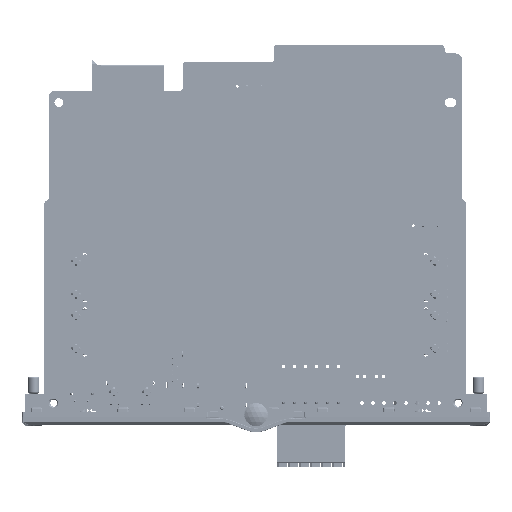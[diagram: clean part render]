
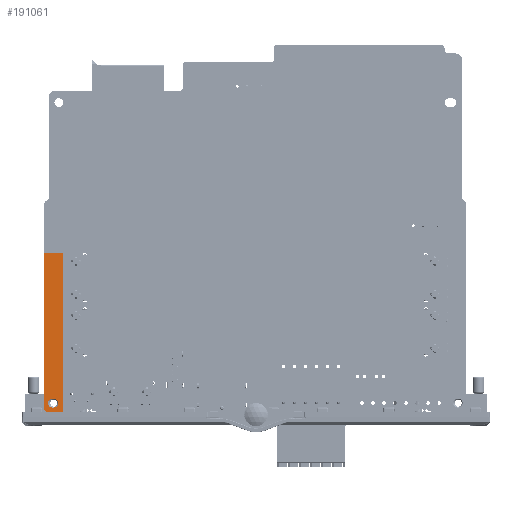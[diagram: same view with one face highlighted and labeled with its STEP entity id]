
A CAD part, front view. The second image highlights one B-rep face of the part: STEP entity #191061.
In plain terms, the highlighted planar face has unit normal (0, -1, 0).
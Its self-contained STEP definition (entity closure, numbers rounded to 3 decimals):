
#1654=FACE_BOUND('',#19735,.T.);
#2770=PLANE('',#201519);
#9706=FACE_OUTER_BOUND('',#19734,.T.);
#19734=EDGE_LOOP('',(#124975,#124976,#124977,#124978,#124979,#124980,#124981,
#124982,#124983,#124984,#124985,#124986,#124987,#124988,#124989,#124990,
#124991,#124992,#124993,#124994,#124995));
#19735=EDGE_LOOP('',(#124996,#124997,#124998,#124999));
#30784=CIRCLE('',#201518,1.);
#30785=CIRCLE('',#201520,0.5);
#30786=CIRCLE('',#201521,0.5);
#30787=CIRCLE('',#201522,0.5);
#30788=CIRCLE('',#201523,0.5);
#30789=CIRCLE('',#201524,0.5);
#30790=CIRCLE('',#201525,0.5);
#30791=CIRCLE('',#201526,0.5);
#30792=CIRCLE('',#201527,0.5);
#30793=CIRCLE('',#201528,1.55);
#30794=CIRCLE('',#201529,1.55);
#36379=LINE('',#269985,#57290);
#36761=LINE('',#271570,#57672);
#36762=LINE('',#271574,#57673);
#36763=LINE('',#271578,#57674);
#36764=LINE('',#271582,#57675);
#36765=LINE('',#271586,#57676);
#36766=LINE('',#271590,#57677);
#36767=LINE('',#271594,#57678);
#36768=LINE('',#271598,#57679);
#36769=LINE('',#271602,#57680);
#36770=LINE('',#271604,#57681);
#36771=LINE('',#271605,#57682);
#36772=LINE('',#271608,#57683);
#36773=LINE('',#271612,#57684);
#57290=VECTOR('',#217280,10.);
#57672=VECTOR('',#218732,10.);
#57673=VECTOR('',#218735,10.);
#57674=VECTOR('',#218738,10.);
#57675=VECTOR('',#218741,10.);
#57676=VECTOR('',#218744,10.);
#57677=VECTOR('',#218747,10.);
#57678=VECTOR('',#218750,10.);
#57679=VECTOR('',#218753,10.);
#57680=VECTOR('',#218756,10.);
#57681=VECTOR('',#218757,10.);
#57682=VECTOR('',#218758,10.);
#57683=VECTOR('',#218759,10.);
#57684=VECTOR('',#218762,10.);
#78300=VERTEX_POINT('',#269981);
#78302=VERTEX_POINT('',#269984);
#78766=VERTEX_POINT('',#271565);
#78767=VERTEX_POINT('',#271569);
#78768=VERTEX_POINT('',#271571);
#78769=VERTEX_POINT('',#271573);
#78770=VERTEX_POINT('',#271575);
#78771=VERTEX_POINT('',#271577);
#78772=VERTEX_POINT('',#271579);
#78773=VERTEX_POINT('',#271581);
#78774=VERTEX_POINT('',#271583);
#78775=VERTEX_POINT('',#271585);
#78776=VERTEX_POINT('',#271587);
#78777=VERTEX_POINT('',#271589);
#78778=VERTEX_POINT('',#271591);
#78779=VERTEX_POINT('',#271593);
#78780=VERTEX_POINT('',#271595);
#78781=VERTEX_POINT('',#271597);
#78782=VERTEX_POINT('',#271599);
#78783=VERTEX_POINT('',#271601);
#78784=VERTEX_POINT('',#271603);
#78785=VERTEX_POINT('',#271606);
#78786=VERTEX_POINT('',#271607);
#78787=VERTEX_POINT('',#271609);
#78788=VERTEX_POINT('',#271611);
#96041=EDGE_CURVE('',#78302,#78300,#36379,.T.);
#96746=EDGE_CURVE('',#78302,#78766,#30784,.T.);
#96748=EDGE_CURVE('',#78767,#78300,#36761,.T.);
#96749=EDGE_CURVE('',#78767,#78768,#30785,.T.);
#96750=EDGE_CURVE('',#78769,#78768,#36762,.T.);
#96751=EDGE_CURVE('',#78769,#78770,#30786,.T.);
#96752=EDGE_CURVE('',#78771,#78770,#36763,.T.);
#96753=EDGE_CURVE('',#78771,#78772,#30787,.T.);
#96754=EDGE_CURVE('',#78773,#78772,#36764,.T.);
#96755=EDGE_CURVE('',#78773,#78774,#30788,.T.);
#96756=EDGE_CURVE('',#78775,#78774,#36765,.T.);
#96757=EDGE_CURVE('',#78775,#78776,#30789,.T.);
#96758=EDGE_CURVE('',#78777,#78776,#36766,.T.);
#96759=EDGE_CURVE('',#78777,#78778,#30790,.T.);
#96760=EDGE_CURVE('',#78779,#78778,#36767,.T.);
#96761=EDGE_CURVE('',#78779,#78780,#30791,.T.);
#96762=EDGE_CURVE('',#78781,#78780,#36768,.T.);
#96763=EDGE_CURVE('',#78781,#78782,#30792,.T.);
#96764=EDGE_CURVE('',#78783,#78782,#36769,.T.);
#96765=EDGE_CURVE('',#78783,#78784,#36770,.T.);
#96766=EDGE_CURVE('',#78766,#78784,#36771,.T.);
#96767=EDGE_CURVE('',#78785,#78786,#36772,.T.);
#96768=EDGE_CURVE('',#78787,#78785,#30793,.T.);
#96769=EDGE_CURVE('',#78788,#78787,#36773,.T.);
#96770=EDGE_CURVE('',#78786,#78788,#30794,.T.);
#124975=ORIENTED_EDGE('',*,*,#96041,.T.);
#124976=ORIENTED_EDGE('',*,*,#96748,.F.);
#124977=ORIENTED_EDGE('',*,*,#96749,.T.);
#124978=ORIENTED_EDGE('',*,*,#96750,.F.);
#124979=ORIENTED_EDGE('',*,*,#96751,.T.);
#124980=ORIENTED_EDGE('',*,*,#96752,.F.);
#124981=ORIENTED_EDGE('',*,*,#96753,.T.);
#124982=ORIENTED_EDGE('',*,*,#96754,.F.);
#124983=ORIENTED_EDGE('',*,*,#96755,.T.);
#124984=ORIENTED_EDGE('',*,*,#96756,.F.);
#124985=ORIENTED_EDGE('',*,*,#96757,.T.);
#124986=ORIENTED_EDGE('',*,*,#96758,.F.);
#124987=ORIENTED_EDGE('',*,*,#96759,.T.);
#124988=ORIENTED_EDGE('',*,*,#96760,.F.);
#124989=ORIENTED_EDGE('',*,*,#96761,.T.);
#124990=ORIENTED_EDGE('',*,*,#96762,.F.);
#124991=ORIENTED_EDGE('',*,*,#96763,.T.);
#124992=ORIENTED_EDGE('',*,*,#96764,.F.);
#124993=ORIENTED_EDGE('',*,*,#96765,.T.);
#124994=ORIENTED_EDGE('',*,*,#96766,.F.);
#124995=ORIENTED_EDGE('',*,*,#96746,.F.);
#124996=ORIENTED_EDGE('',*,*,#96767,.F.);
#124997=ORIENTED_EDGE('',*,*,#96768,.F.);
#124998=ORIENTED_EDGE('',*,*,#96769,.F.);
#124999=ORIENTED_EDGE('',*,*,#96770,.F.);
#191061=ADVANCED_FACE('',(#9706,#1654),#2770,.T.);
#201518=AXIS2_PLACEMENT_3D('',#271566,#218727,#218728);
#201519=AXIS2_PLACEMENT_3D('',#271568,#218730,#218731);
#201520=AXIS2_PLACEMENT_3D('',#271572,#218733,#218734);
#201521=AXIS2_PLACEMENT_3D('',#271576,#218736,#218737);
#201522=AXIS2_PLACEMENT_3D('',#271580,#218739,#218740);
#201523=AXIS2_PLACEMENT_3D('',#271584,#218742,#218743);
#201524=AXIS2_PLACEMENT_3D('',#271588,#218745,#218746);
#201525=AXIS2_PLACEMENT_3D('',#271592,#218748,#218749);
#201526=AXIS2_PLACEMENT_3D('',#271596,#218751,#218752);
#201527=AXIS2_PLACEMENT_3D('',#271600,#218754,#218755);
#201528=AXIS2_PLACEMENT_3D('',#271610,#218760,#218761);
#201529=AXIS2_PLACEMENT_3D('',#271613,#218763,#218764);
#217280=DIRECTION('',(1.,0.,0.));
#218727=DIRECTION('center_axis',(0.,1.,0.));
#218728=DIRECTION('ref_axis',(-0.707,0.,-0.707));
#218730=DIRECTION('center_axis',(0.,-1.,0.));
#218731=DIRECTION('ref_axis',(0.,0.,-1.));
#218732=DIRECTION('',(0.,0.,-1.));
#218733=DIRECTION('center_axis',(0.,1.,0.));
#218734=DIRECTION('ref_axis',(-1.,0.,0.));
#218735=DIRECTION('',(0.,0.,-1.));
#218736=DIRECTION('center_axis',(0.,1.,0.));
#218737=DIRECTION('ref_axis',(-1.,0.,0.));
#218738=DIRECTION('',(0.,0.,-1.));
#218739=DIRECTION('center_axis',(0.,1.,0.));
#218740=DIRECTION('ref_axis',(-1.,0.,0.));
#218741=DIRECTION('',(0.,0.,-1.));
#218742=DIRECTION('center_axis',(0.,1.,0.));
#218743=DIRECTION('ref_axis',(-1.,0.,0.));
#218744=DIRECTION('',(0.,0.,-1.));
#218745=DIRECTION('center_axis',(0.,1.,0.));
#218746=DIRECTION('ref_axis',(-1.,0.,0.));
#218747=DIRECTION('',(0.,0.,-1.));
#218748=DIRECTION('center_axis',(0.,1.,0.));
#218749=DIRECTION('ref_axis',(-1.,0.,0.));
#218750=DIRECTION('',(0.,0.,-1.));
#218751=DIRECTION('center_axis',(0.,1.,0.));
#218752=DIRECTION('ref_axis',(-1.,0.,0.));
#218753=DIRECTION('',(0.,0.,-1.));
#218754=DIRECTION('center_axis',(0.,1.,0.));
#218755=DIRECTION('ref_axis',(-1.,0.,0.));
#218756=DIRECTION('',(0.,0.,-1.));
#218757=DIRECTION('',(-1.,0.,0.));
#218758=DIRECTION('',(0.,0.,1.));
#218759=DIRECTION('',(1.,0.,0.));
#218760=DIRECTION('center_axis',(0.,-1.,0.));
#218761=DIRECTION('ref_axis',(0.,0.,-1.));
#218762=DIRECTION('',(-1.,0.,0.));
#218763=DIRECTION('center_axis',(0.,-1.,0.));
#218764=DIRECTION('ref_axis',(0.,0.,1.));
#269981=CARTESIAN_POINT('',(-66.5,-1.55,0.004));
#269984=CARTESIAN_POINT('',(-72.091,-1.55,0.004));
#269985=CARTESIAN_POINT('',(-34.609,-1.55,0.004));
#271565=CARTESIAN_POINT('',(-73.,-1.55,1.));
#271566=CARTESIAN_POINT('Origin',(-72.,-1.55,1.));
#271568=CARTESIAN_POINT('Origin',(-69.465,-1.55,54.941));
#271569=CARTESIAN_POINT('',(-66.5,-1.55,20.628));
#271570=CARTESIAN_POINT('',(-66.5,-1.55,111.));
#271571=CARTESIAN_POINT('',(-66.5,-1.55,21.362));
#271572=CARTESIAN_POINT('Origin',(-66.16,-1.55,20.995));
#271573=CARTESIAN_POINT('',(-66.5,-1.55,23.168));
#271574=CARTESIAN_POINT('',(-66.5,-1.55,111.));
#271575=CARTESIAN_POINT('',(-66.5,-1.55,23.902));
#271576=CARTESIAN_POINT('Origin',(-66.16,-1.55,23.535));
#271577=CARTESIAN_POINT('',(-66.5,-1.55,31.348));
#271578=CARTESIAN_POINT('',(-66.5,-1.55,111.));
#271579=CARTESIAN_POINT('',(-66.5,-1.55,32.082));
#271580=CARTESIAN_POINT('Origin',(-66.16,-1.55,31.715));
#271581=CARTESIAN_POINT('',(-66.5,-1.55,33.888));
#271582=CARTESIAN_POINT('',(-66.5,-1.55,111.));
#271583=CARTESIAN_POINT('',(-66.5,-1.55,34.622));
#271584=CARTESIAN_POINT('Origin',(-66.16,-1.55,34.255));
#271585=CARTESIAN_POINT('',(-66.5,-1.55,39.388));
#271586=CARTESIAN_POINT('',(-66.5,-1.55,111.));
#271587=CARTESIAN_POINT('',(-66.5,-1.55,40.122));
#271588=CARTESIAN_POINT('Origin',(-66.16,-1.55,39.755));
#271589=CARTESIAN_POINT('',(-66.5,-1.55,41.928));
#271590=CARTESIAN_POINT('',(-66.5,-1.55,111.));
#271591=CARTESIAN_POINT('',(-66.5,-1.55,42.662));
#271592=CARTESIAN_POINT('Origin',(-66.16,-1.55,42.295));
#271593=CARTESIAN_POINT('',(-66.5,-1.55,50.108));
#271594=CARTESIAN_POINT('',(-66.5,-1.55,111.));
#271595=CARTESIAN_POINT('',(-66.5,-1.55,50.842));
#271596=CARTESIAN_POINT('Origin',(-66.16,-1.55,50.475));
#271597=CARTESIAN_POINT('',(-66.5,-1.55,52.648));
#271598=CARTESIAN_POINT('',(-66.5,-1.55,111.));
#271599=CARTESIAN_POINT('',(-66.5,-1.55,53.382));
#271600=CARTESIAN_POINT('Origin',(-66.16,-1.55,53.015));
#271601=CARTESIAN_POINT('',(-66.5,-1.55,55.));
#271602=CARTESIAN_POINT('',(-66.5,-1.55,111.));
#271603=CARTESIAN_POINT('',(-73.,-1.55,55.));
#271604=CARTESIAN_POINT('',(-71.233,-1.55,55.));
#271605=CARTESIAN_POINT('',(-73.,-1.55,27.47));
#271606=CARTESIAN_POINT('',(-70.25,-1.55,1.45));
#271607=CARTESIAN_POINT('',(-69.75,-1.55,1.45));
#271608=CARTESIAN_POINT('',(-69.858,-1.55,1.45));
#271609=CARTESIAN_POINT('',(-70.25,-1.55,4.55));
#271610=CARTESIAN_POINT('Origin',(-70.25,-1.55,3.));
#271611=CARTESIAN_POINT('',(-69.75,-1.55,4.55));
#271612=CARTESIAN_POINT('',(-69.608,-1.55,4.55));
#271613=CARTESIAN_POINT('Origin',(-69.75,-1.55,3.));
